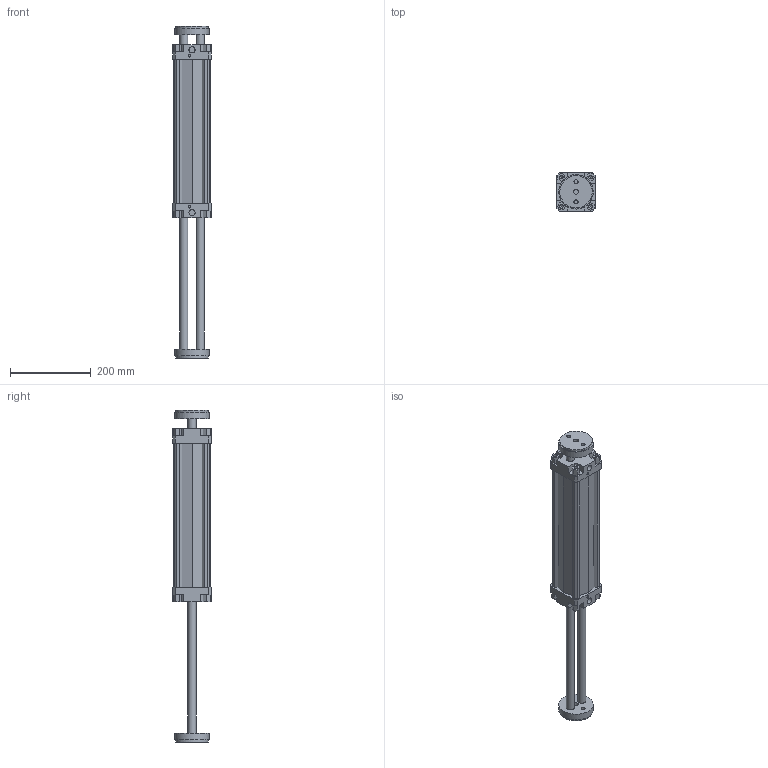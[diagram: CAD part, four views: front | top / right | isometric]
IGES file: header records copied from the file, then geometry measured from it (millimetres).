
Global section: file name: 132#_080_0300_06; native system: Autodesk Inventor 2014; preprocessor: unknown; author: A. Manieri; date: 20161006.162435; units: millimetre
Bounding box: 95 x 95 x 820 mm (x, y, z)
Volume: 2155205 mm3; surface area: 447746.4 mm2
Topology: 2 solids, 2 shells, 190 faces, 518 edges, 354 vertices
Faces by surface type: bspline 190
